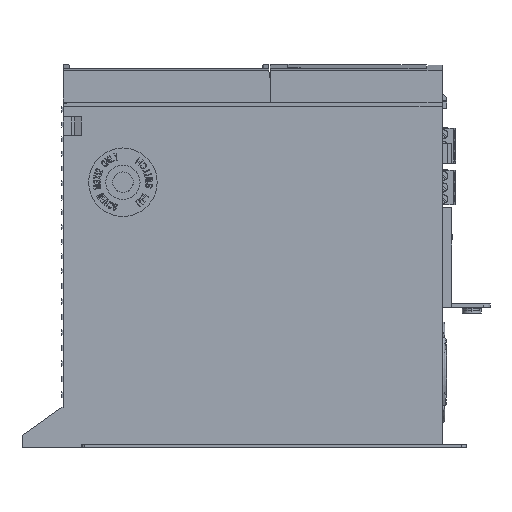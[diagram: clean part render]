
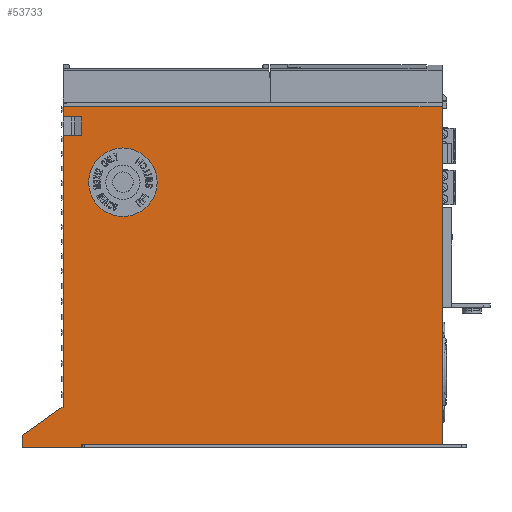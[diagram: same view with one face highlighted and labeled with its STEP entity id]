
A CAD part, left-side view. The second image highlights one B-rep face of the part: STEP entity #53733.
In plain terms, the highlighted planar face has unit normal (-1, 0, 0).
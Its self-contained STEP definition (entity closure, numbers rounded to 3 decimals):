
#91=DIRECTION('',(0.,0.,1.));
#92=VECTOR('',#91,4.5);
#93=CARTESIAN_POINT('',(-37.5,0.,2.9));
#94=LINE('',#93,#92);
#119=DIRECTION('',(0.,0.,1.));
#120=VECTOR('',#119,119.2);
#121=CARTESIAN_POINT('',(-37.5,0.,-124.3));
#122=LINE('',#121,#120);
#1852=DIRECTION('',(0.,0.,1.));
#1853=VECTOR('',#1852,148.);
#1854=CARTESIAN_POINT('',(-37.5,-166.,-140.6));
#1855=LINE('',#1854,#1853);
#6923=CARTESIAN_POINT('',(-37.5,-26.2,-25.7));
#6924=DIRECTION('',(-1.,0.,0.));
#6925=DIRECTION('',(0.,-1.,0.));
#6926=AXIS2_PLACEMENT_3D('',#6923,#6924,#6925);
#6931=CARTESIAN_POINT('',(-37.5,-26.2,-25.7));
#6932=DIRECTION('',(-1.,0.,0.));
#6933=DIRECTION('',(0.,1.,0.));
#6934=AXIS2_PLACEMENT_3D('',#6931,#6932,#6933);
#6939=DIRECTION('',(0.,1.,0.));
#6940=VECTOR('',#6939,166.);
#6941=CARTESIAN_POINT('',(-37.5,-166.,7.4));
#6942=LINE('',#6941,#6940);
#6946=DIRECTION('',(0.,0.,1.));
#6947=VECTOR('',#6946,1.5);
#6948=CARTESIAN_POINT('',(-37.5,-8.,-142.1));
#6949=LINE('',#6948,#6947);
#6953=DIRECTION('',(0.,1.,0.));
#6954=VECTOR('',#6953,26.);
#6955=CARTESIAN_POINT('',(-37.5,-8.,-142.1));
#6956=LINE('',#6955,#6954);
#6960=DIRECTION('',(0.,0.818,-0.575));
#6961=VECTOR('',#6960,21.39);
#6962=CARTESIAN_POINT('',(-37.5,0.5,-124.3));
#6963=LINE('',#6962,#6961);
#6967=DIRECTION('',(0.,1.,0.));
#6968=VECTOR('',#6967,0.5);
#6969=CARTESIAN_POINT('',(-37.5,0.,-124.3));
#6970=LINE('',#6969,#6968);
#6974=DIRECTION('',(0.,-1.,0.));
#6975=VECTOR('',#6974,8.);
#6976=CARTESIAN_POINT('',(-37.5,0.,-5.1));
#6977=LINE('',#6976,#6975);
#6981=DIRECTION('',(0.,0.,-1.));
#6982=VECTOR('',#6981,8.);
#6983=CARTESIAN_POINT('',(-37.5,-8.,2.9));
#6984=LINE('',#6983,#6982);
#6988=DIRECTION('',(0.,-1.,0.));
#6989=VECTOR('',#6988,8.);
#6990=CARTESIAN_POINT('',(-37.5,0.,2.9));
#6991=LINE('',#6990,#6989);
#8047=DIRECTION('',(0.,0.,-1.));
#8048=VECTOR('',#8047,5.5);
#8049=CARTESIAN_POINT('',(-37.5,18.,-136.6));
#8050=LINE('',#8049,#8048);
#18991=DIRECTION('',(0.,-1.,0.));
#18992=VECTOR('',#18991,158.);
#18993=CARTESIAN_POINT('',(-37.5,-8.,-140.6));
#18994=LINE('',#18993,#18992);
#40804=CARTESIAN_POINT('',(-37.5,18.,-142.1));
#40806=VERTEX_POINT('',#40804);
#41282=CARTESIAN_POINT('',(-37.5,-8.,-142.1));
#41283=VERTEX_POINT('',#41282);
#43910=CARTESIAN_POINT('',(-37.5,-166.,-140.6));
#43912=VERTEX_POINT('',#43910);
#43992=CARTESIAN_POINT('',(-37.5,0.,2.9));
#43994=VERTEX_POINT('',#43992);
#44000=CARTESIAN_POINT('',(-37.5,0.,-5.1));
#44002=VERTEX_POINT('',#44000);
#44012=CARTESIAN_POINT('',(-37.5,-8.,2.9));
#44013=VERTEX_POINT('',#44012);
#44014=CARTESIAN_POINT('',(-37.5,-8.,-5.1));
#44015=VERTEX_POINT('',#44014);
#44016=CARTESIAN_POINT('',(-37.5,0.,-124.3));
#44017=VERTEX_POINT('',#44016);
#44252=CARTESIAN_POINT('',(-37.5,-41.2,-25.7));
#44253=CARTESIAN_POINT('',(-37.5,-11.2,-25.7));
#44254=VERTEX_POINT('',#44252);
#44255=VERTEX_POINT('',#44253);
#46104=CARTESIAN_POINT('',(-37.5,18.,-136.6));
#46105=VERTEX_POINT('',#46104);
#46122=CARTESIAN_POINT('',(-37.5,-8.,-140.6));
#46123=VERTEX_POINT('',#46122);
#46932=CARTESIAN_POINT('',(-37.5,0.,7.4));
#46934=VERTEX_POINT('',#46932);
#46944=CARTESIAN_POINT('',(-37.5,-166.,7.4));
#46946=VERTEX_POINT('',#46944);
#47098=CARTESIAN_POINT('',(-37.5,0.5,-124.3));
#47099=VERTEX_POINT('',#47098);
#53699=CARTESIAN_POINT('',(-37.5,0.,-142.1));
#53700=DIRECTION('',(-1.,0.,0.));
#53701=DIRECTION('',(0.,0.,1.));
#53702=AXIS2_PLACEMENT_3D('',#53699,#53700,#53701);
#53703=PLANE('',#53702);
#53705=ORIENTED_EDGE('',*,*,#53704,.F.);
#53706=ORIENTED_EDGE('',*,*,#49354,.F.);
#53708=ORIENTED_EDGE('',*,*,#53707,.F.);
#53710=ORIENTED_EDGE('',*,*,#53709,.F.);
#53712=ORIENTED_EDGE('',*,*,#53711,.T.);
#53714=ORIENTED_EDGE('',*,*,#53713,.F.);
#53715=ORIENTED_EDGE('',*,*,#53673,.F.);
#53716=ORIENTED_EDGE('',*,*,#51004,.F.);
#53717=ORIENTED_EDGE('',*,*,#48481,.T.);
#53719=ORIENTED_EDGE('',*,*,#53718,.T.);
#53721=ORIENTED_EDGE('',*,*,#53720,.F.);
#53723=ORIENTED_EDGE('',*,*,#53722,.F.);
#53724=ORIENTED_EDGE('',*,*,#48473,.T.);
#53725=EDGE_LOOP('',(#53705,#53706,#53708,#53710,#53712,#53714,#53715,#53716,
#53717,#53719,#53721,#53723,#53724));
#53726=FACE_OUTER_BOUND('',#53725,.F.);
#53728=ORIENTED_EDGE('',*,*,#53727,.T.);
#53730=ORIENTED_EDGE('',*,*,#53729,.T.);
#53731=EDGE_LOOP('',(#53728,#53730));
#53732=FACE_BOUND('',#53731,.F.);
#53733=ADVANCED_FACE('',(#53726,#53732),#53703,.T.);
#6927=CIRCLE('',#6926,15.);
#6935=CIRCLE('',#6934,15.);
#48473=EDGE_CURVE('',#43994,#46934,#94,.T.);
#48481=EDGE_CURVE('',#44017,#44002,#122,.T.);
#49354=EDGE_CURVE('',#43912,#46946,#1855,.T.);
#51004=EDGE_CURVE('',#44017,#47099,#6970,.T.);
#53673=EDGE_CURVE('',#47099,#46105,#6963,.T.);
#53704=EDGE_CURVE('',#46946,#46934,#6942,.T.);
#53707=EDGE_CURVE('',#46123,#43912,#18994,.T.);
#53709=EDGE_CURVE('',#41283,#46123,#6949,.T.);
#53711=EDGE_CURVE('',#41283,#40806,#6956,.T.);
#53713=EDGE_CURVE('',#46105,#40806,#8050,.T.);
#53718=EDGE_CURVE('',#44002,#44015,#6977,.T.);
#53720=EDGE_CURVE('',#44013,#44015,#6984,.T.);
#53722=EDGE_CURVE('',#43994,#44013,#6991,.T.);
#53727=EDGE_CURVE('',#44254,#44255,#6927,.T.);
#53729=EDGE_CURVE('',#44255,#44254,#6935,.T.);
